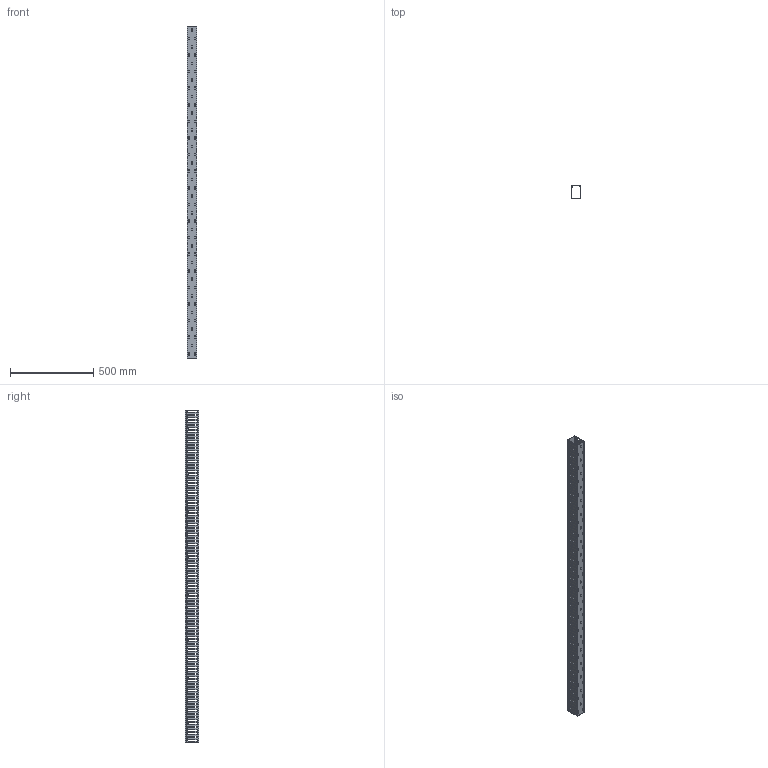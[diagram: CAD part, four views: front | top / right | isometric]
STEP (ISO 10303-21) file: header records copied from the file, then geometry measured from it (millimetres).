
FILE_DESCRIPTION (( 'STEP AP214' ), '1' );
FILE_NAME ('KD-68-20-H.STEP', '2020-02-19T00:47:36', ( '' ), ( '' ), 'SwSTEP 2.0', 'SolidWorks 2018', '' );
FILE_SCHEMA (( 'AUTOMOTIVE_DESIGN' ));
Length unit declared in the file: millimetre
Products named in the file (3): KD-68-20-H-body; KD-64-20-cover; KD-68-20-H
Assembly tree (2 placements, depth 2):
  KD-68-20-H
    KD-68-20-H-body
    KD-64-20-cover
Bounding box: 60 x 80.17 x 2000 mm (x, y, z)
Volume: 846247.5 mm3; surface area: 1081044 mm2
Topology: 2 solids, 2 shells, 1963 faces, 5877 edges, 3918 vertices
Faces by surface type: cylinder 1017, plane 946
Entity records: 67875 total; most frequent: DIRECTION 11847, CARTESIAN_POINT 11763, ORIENTED_EDGE 11754, EDGE_CURVE 5877, AXIS2_PLACEMENT_3D 4002, VERTEX_POINT 3918, LINE 3843, VECTOR 3843
